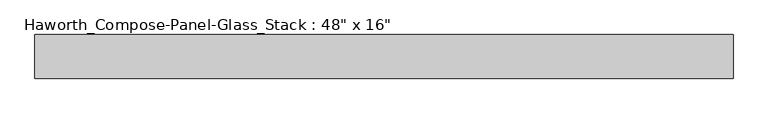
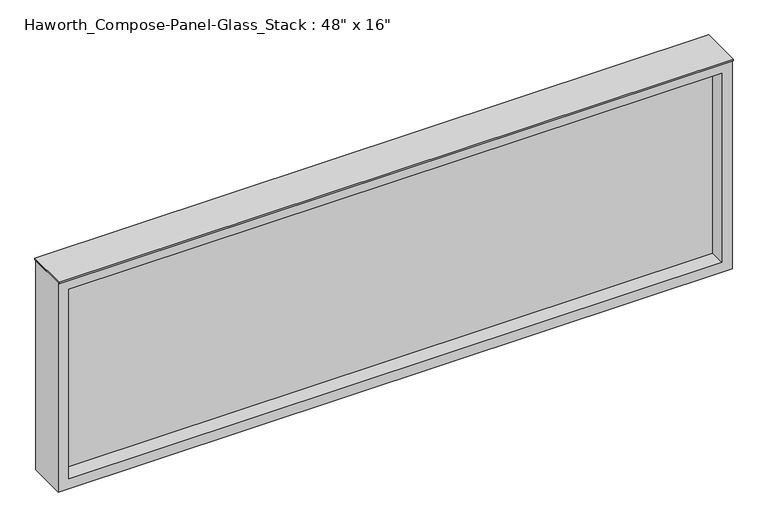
"""IFC4 building model written with IfcOpenShell, lengths in millimetres: furniture geometry."""

from ifc_helpers import new_model, si_unit, frame, origin, place, context, project, spatial, polyline, outline, extrude, source, transform, mapped, element, save


def furniture_432d4c5d(model_context):
    return source(origin(), model_context, "Body", "SweptSolid", [
        extrude(outline(polyline([(592.9902902, 6.35), (592.9902902, -6.35), (-588.1097098, -6.35), (-588.1097098, 6.35), (592.9902902, 6.35)])), frame((0.0, 0.0, 1085.85), z_axis=(0.0, 0.0, 1.0), x_axis=(1.0, 0.0, 0.0)), (0.0, 0.0, 1.0), 361.95),
        extrude(outline(polyline([(1466.85, 612.0402902), (1466.85, -607.1597098), (1066.8, -607.1597098), (1066.8, 612.0402902), (1466.85, 612.0402902)]), holes=[polyline([(1447.8, -588.1097098), (1447.8, 592.9902902), (1085.85, 592.9902902), (1085.85, -588.1097098), (1447.8, -588.1097098)])]), frame((0.0, -34.925, 0.0), z_axis=(0.0, 1.0, 0.0), x_axis=(0.0, 0.0, 1.0)), (0.0, 0.0, 1.0), 69.85),
        extrude(outline(polyline([(-607.1597098, 38.1), (612.0402902, 38.1), (612.0402902, -38.1), (-607.1597098, -38.1), (-607.1597098, 38.1)])), frame((0.0, 0.0, 1466.85), z_axis=(0.0, 0.0, 1.0), x_axis=(1.0, 0.0, 0.0)), (0.0, 0.0, 1.0), 3.175),
    ])


if __name__ == "__main__":
    model = new_model("IFC4")
    model_context = context("Model", 3, world=origin())
    ifc_project = project(units=[si_unit("LENGTHUNIT", "METRE", prefix="MILLI")], contexts=[model_context])
    site = spatial("IfcSite", under=ifc_project)
    building = spatial("IfcBuilding", under=site)
    placement = place(None, origin())
    furniture_shape = furniture_432d4c5d(model_context)
    element("IfcFurniture", 1, ObjectType="Haworth_Compose-Panel-Glass_Stack : 48\" x 16\"", at=placement, inside=building, context=model_context, shape_type="MappedRepresentation", body=[
        mapped(furniture_shape, transform((0.0, 0.0, 0.0), x_axis=(1.0, 0.0, 0.0), y_axis=(0.0, 1.0, 0.0), z_axis=(0.0, 0.0, 1.0))),
    ])
    save(model, "model.ifc")
